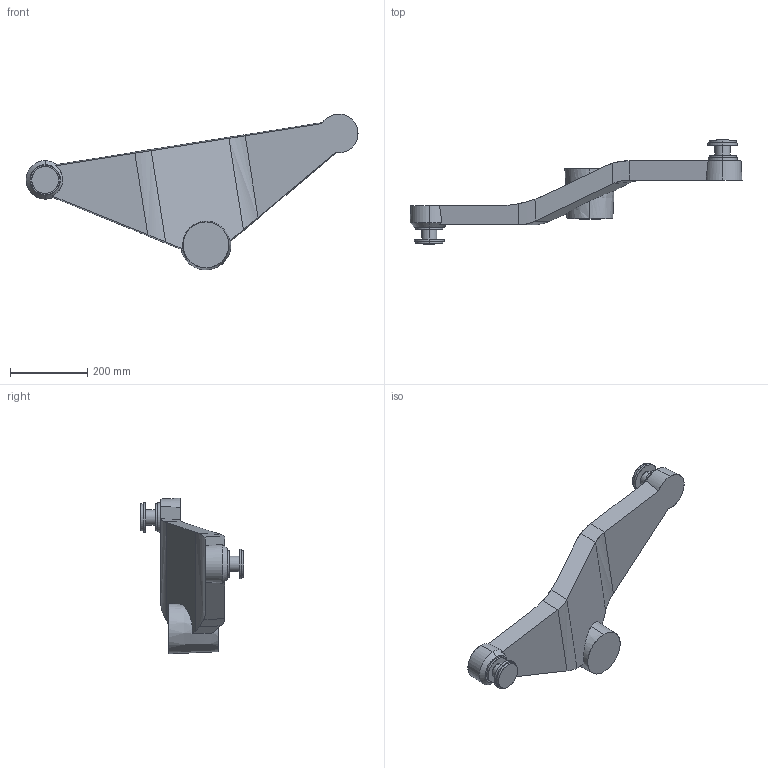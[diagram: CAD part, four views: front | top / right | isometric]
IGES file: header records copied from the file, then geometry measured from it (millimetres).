
Start section: SolidWorks IGES file using analytic representation for surfaces
Global section: file name: C:\Data\Lättmodeller\Nytt\660\IRB660_180-315_IRC5_rev03\IRB660_180-315_IRC5_rev03_IRC5_IGES_j\IRB660_180-315_LINK_CAD_rev02.IGS; native system: SolidWorks 2014; preprocessor: SolidWorks 2014; author: seadbov; date: 161202.130154; units: millimetre
Bounding box: 862.15 x 269.75 x 404.61 mm (x, y, z)
Surface area: 512181.7 mm2 (no closed solid volume)
Topology: 0 solids, 0 shells, 64 faces, 1954 edges, 1954 vertices
Faces by surface type: revolution 34, bspline 30
